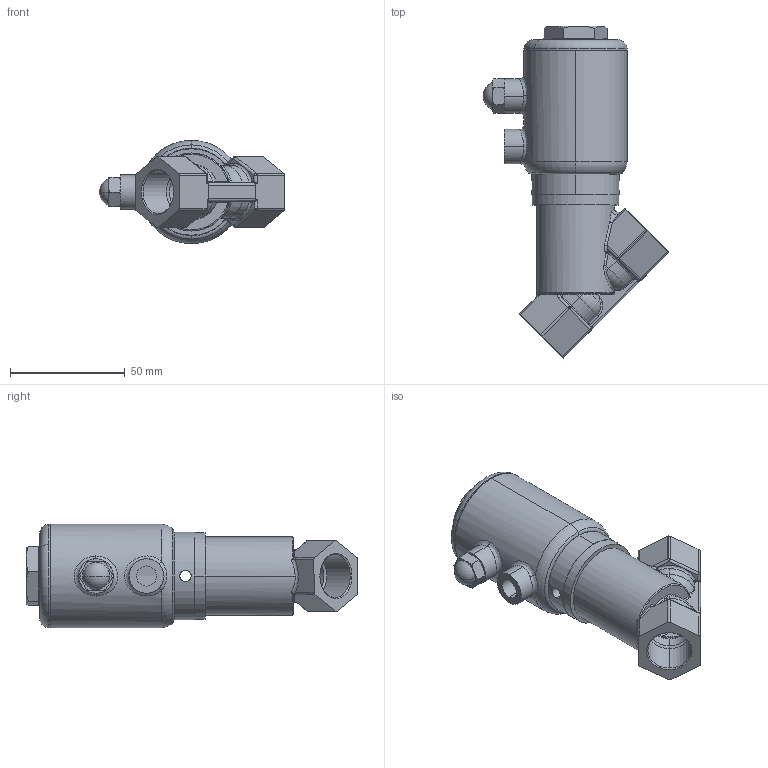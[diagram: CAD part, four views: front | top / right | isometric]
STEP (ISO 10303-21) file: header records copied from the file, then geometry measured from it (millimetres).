
FILE_DESCRIPTION (( 'STEP AP203' ), '1' );
FILE_NAME ('PCIPFM_015_0_1.STEP', '2017-07-25T15:23:20', ( 'user' ), ( '' ), 'SwSTEP 2.0', 'SolidWorks 2013', '' );
FILE_SCHEMA (( 'CONFIG_CONTROL_DESIGN' ));
Length unit declared in the file: millimetre
Products named in the file (1): PCIPFM_015_0_1
Bounding box: 81.02 x 144.65 x 45 mm (x, y, z)
Surface area: 26555 mm2 (no closed solid volume)
Topology: 0 solids, 5 shells, 268 faces, 714 edges, 444 vertices
Faces by surface type: cylinder 83, bspline 63, plane 49, torus 31, cone 26, sphere 16
Entity records: 12127 total; most frequent: CARTESIAN_POINT 6056, ORIENTED_EDGE 1314, DIRECTION 1151, EDGE_CURVE 710, AXIS2_PLACEMENT_3D 483, VERTEX_POINT 442, EDGE_LOOP 282, CIRCLE 277
